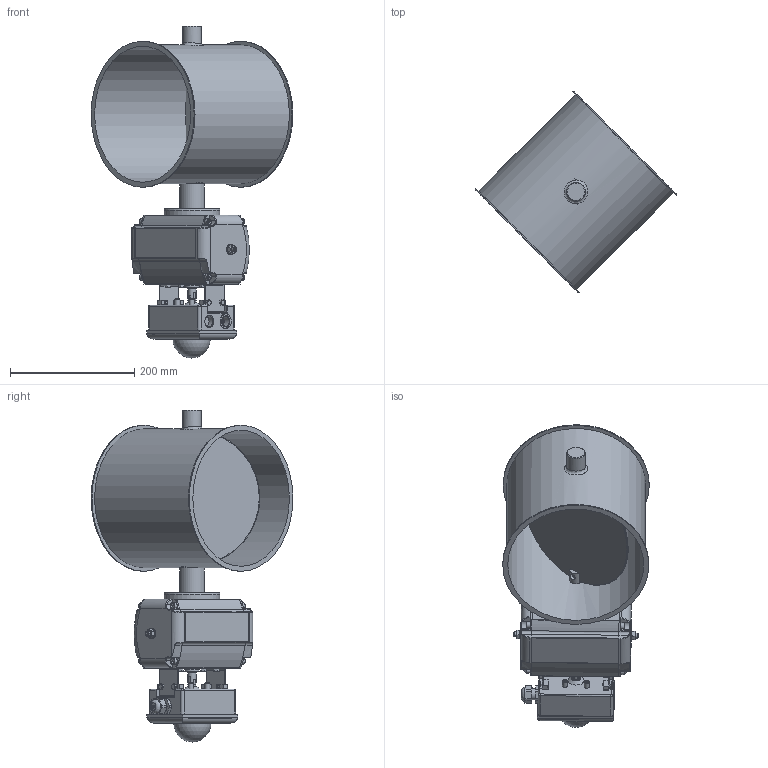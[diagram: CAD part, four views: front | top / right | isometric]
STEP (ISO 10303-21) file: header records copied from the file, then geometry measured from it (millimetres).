
FILE_DESCRIPTION((''),'2;1');
FILE_NAME('U:\Wolfgang\Marcel-3D\fertig\Kapitel 8\2221213.stp','2012-01-13T11:11:16',('iwienholt'),(''),'Autodesk Inventor 2010','Autodesk Inventor 2010','');
FILE_SCHEMA(('AUTOMOTIVE_DESIGN { 1 0 10303 214 1 1 1 1 }'));
Length unit declared in the file: millimetre
Products named in the file (21): 2221213; Bolzen D20; Scheibe224b; 2221211-1; Antrieb Flowserve D20; Pneumatischer SchwenkantriebS85D-2; Body; roter Verschluss; A1 Schwenkantrieb S85D; Body S085D; DIN EN ISO 4018 M5x10; DIN 125-1 A A 13; End Cap L85; End Cap R85; DIN 125-1 A A 8,4; DIN 916 M8  x  40; DIN 555 - ersetzt durch DIN EN 24034 M8; DIN EN ISO 4762 M6 x 12; Halterung; Deckel2; BuchseD20 90-50
Assembly tree (40 placements, depth 5):
  2221213
    Bolzen D20  x2
    Scheibe224b
    2221211-1
    Antrieb Flowserve D20
      Pneumatischer SchwenkantriebS85D-2
        Body
        roter Verschluss
        A1 Schwenkantrieb S85D
          Body S085D
          DIN EN ISO 4018 M5x10  x4
          DIN 125-1 A A 13  x2
          End Cap L85
          End Cap R85
          DIN 125-1 A A 8,4  x2
          DIN 916 M8  x  40  x2
          DIN 555 - ersetzt durch DIN EN 24034 M8  x2
          DIN EN ISO 4762 M6 x 12  x8
        Halterung  x2
        DIN EN ISO 4018 M5x10  x4
        Deckel2
      BuchseD20 90-50
Bounding box: 324.54 x 324.58 x 534 mm (x, y, z)
Volume: 2783508.6 mm3; surface area: 703087.7 mm2
Topology: 39 solids, 39 shells, 886 faces, 2067 edges, 1312 vertices
Faces by surface type: plane 448, cylinder 195, cone 104, bspline 100, torus 38, sphere 1
Full cylindrical faces by diameter (mm): 3.242 x4, 5 x10, 6 x12, 6.647 x4, 8 x6, 8.376 x1, 8.4 x2, 10 x10, 11.9 x2, 12.5 x1, 13 x5, 14 x1, 16 x2, 17 x1, 17.79 x2, 18 x3, 20 x4, 20.5 x1, 22 x1, 24 x3, 28.5 x1, 30 x3, 40 x3, 90 x1, 219 x2, 223 x1, 235 x2
Entity records: 19153 total; most frequent: CARTESIAN_POINT 5435, DIRECTION 2734, ORIENTED_EDGE 2444, EDGE_CURVE 1222, AXIS2_PLACEMENT_3D 1059, VERTEX_POINT 852, EDGE_LOOP 832, VECTOR 616
